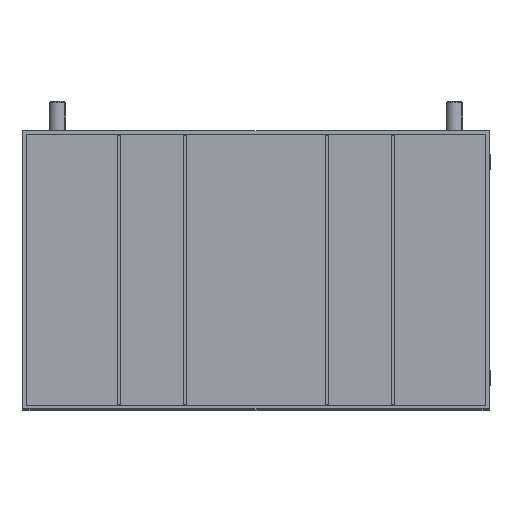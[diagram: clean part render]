
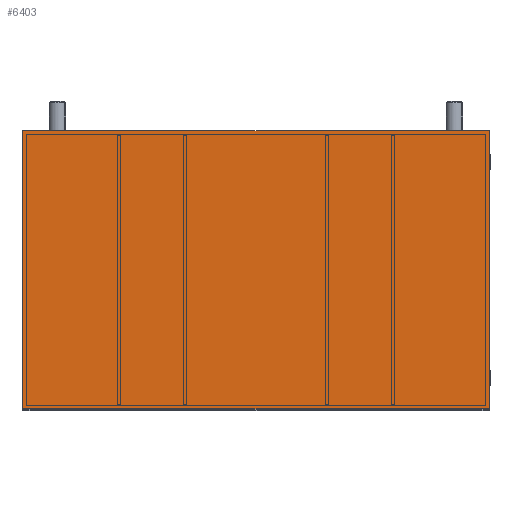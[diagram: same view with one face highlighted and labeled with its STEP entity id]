
A CAD part, top view. The second image highlights one B-rep face of the part: STEP entity #6403.
In plain terms, the highlighted planar face has unit normal (0, 0, 1) as drawn and (0, 0, -1) by its records, which use the part's own axes.
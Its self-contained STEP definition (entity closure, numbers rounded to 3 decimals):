
#186 = DIRECTION ( 'NONE',  ( 0., 0., -1. ) ) ;
#412 = ORIENTED_EDGE ( 'NONE', *, *, #9837, .F. ) ;
#649 = CARTESIAN_POINT ( 'NONE',  ( -167.75, -100., -2.5 ) ) ;
#834 = CARTESIAN_POINT ( 'NONE',  ( 0., 100., -2.5 ) ) ;
#1112 = VECTOR ( 'NONE', #4206, 1000. ) ;
#1374 = EDGE_CURVE ( 'NONE', #3686, #1989, #4275, .T. ) ;
#1384 = CARTESIAN_POINT ( 'NONE',  ( -167.75, 100., -2.5 ) ) ;
#1989 = VERTEX_POINT ( 'NONE', #12025 ) ;
#2254 = VERTEX_POINT ( 'NONE', #1384 ) ;
#3261 = CARTESIAN_POINT ( 'NONE',  ( 0., -100., -2.5 ) ) ;
#3300 = DIRECTION ( 'NONE',  ( -1., 0., 0. ) ) ;
#3686 = VERTEX_POINT ( 'NONE', #649 ) ;
#4206 = DIRECTION ( 'NONE',  ( 1., 0., 0. ) ) ;
#4275 = LINE ( 'NONE', #3261, #1112 ) ;
#4475 = EDGE_LOOP ( 'NONE', ( #11535, #8899, #11146, #412 ) ) ;
#5224 = LINE ( 'NONE', #8392, #6771 ) ;
#5315 = CARTESIAN_POINT ( 'NONE',  ( 0., 0., -2.5 ) ) ;
#5668 = VECTOR ( 'NONE', #10577, 1000. ) ;
#5965 = EDGE_CURVE ( 'NONE', #2254, #3686, #5224, .T. ) ;
#5985 = EDGE_CURVE ( 'NONE', #1989, #11499, #11741, .T. ) ;
#6400 = CARTESIAN_POINT ( 'NONE',  ( 167.75, 0., -2.5 ) ) ;
#6403 = ADVANCED_FACE ( 'NONE', ( #12579 ), #12851, .T. ) ;
#6771 = VECTOR ( 'NONE', #9414, 1000. ) ;
#7007 = LINE ( 'NONE', #834, #11598 ) ;
#8392 = CARTESIAN_POINT ( 'NONE',  ( -167.75, 0., -2.5 ) ) ;
#8899 = ORIENTED_EDGE ( 'NONE', *, *, #1374, .F. ) ;
#9414 = DIRECTION ( 'NONE',  ( 0., -1., 0. ) ) ;
#9837 = EDGE_CURVE ( 'NONE', #11499, #2254, #7007, .T. ) ;
#10577 = DIRECTION ( 'NONE',  ( 0., 1., 0. ) ) ;
#11146 = ORIENTED_EDGE ( 'NONE', *, *, #5965, .F. ) ;
#11176 = DIRECTION ( 'NONE',  ( -1., 0., 0. ) ) ;
#11499 = VERTEX_POINT ( 'NONE', #12158 ) ;
#11535 = ORIENTED_EDGE ( 'NONE', *, *, #5985, .F. ) ;
#11598 = VECTOR ( 'NONE', #11176, 1000. ) ;
#11741 = LINE ( 'NONE', #6400, #5668 ) ;
#12025 = CARTESIAN_POINT ( 'NONE',  ( 167.75, -100., -2.5 ) ) ;
#12158 = CARTESIAN_POINT ( 'NONE',  ( 167.75, 100., -2.5 ) ) ;
#12579 = FACE_OUTER_BOUND ( 'NONE', #4475, .T. ) ;
#12851 = PLANE ( 'NONE',  #13332 ) ;
#13332 = AXIS2_PLACEMENT_3D ( 'NONE', #5315, #186, #3300 ) ;
